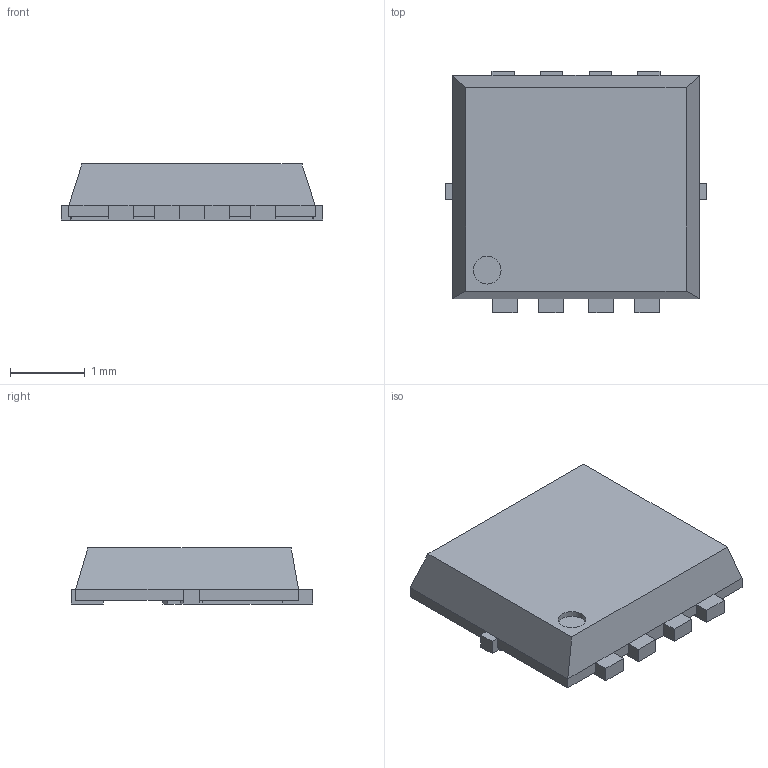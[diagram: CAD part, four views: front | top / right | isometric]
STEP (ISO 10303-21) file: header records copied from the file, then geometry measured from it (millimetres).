
FILE_DESCRIPTION(/* description */ ('Unknown'),/* implementation_level */ '2;1');
FILE_NAME(/* name */ 'NTTFS5C454NLTAG',/* time_stamp */ '2023-03-14T14:02:16+02:00',/* author */ ('Unknown'),/* organization */ ('Unknown'),/* preprocessor_version */ 'ST-DEVELOPER v18.102',/* originating_system */ 'Solid Edge',/* authorisation */ 'Unknown');
FILE_SCHEMA (('AUTOMOTIVE_DESIGN {1 0 10303 214 3 1 1}'));
Length unit declared in the file: millimetre
Products named in the file (1): NTTFS5C454NLTAG
Bounding box: 3.5 x 3.24 x 0.75 mm (x, y, z)
Volume: 6.7 mm3; surface area: 28.8 mm2
Topology: 1 solids, 1 shells, 94 faces, 249 edges, 158 vertices
Faces by surface type: plane 93, cylinder 1
Full cylindrical faces by diameter (mm): 0.374 x1
Entity records: 3500 total; most frequent: CARTESIAN_POINT 501, ORIENTED_EDGE 496, DIRECTION 440, EDGE_CURVE 248, LINE 246, VECTOR 246, VERTEX_POINT 158, AXIS2_PLACEMENT_3D 97
